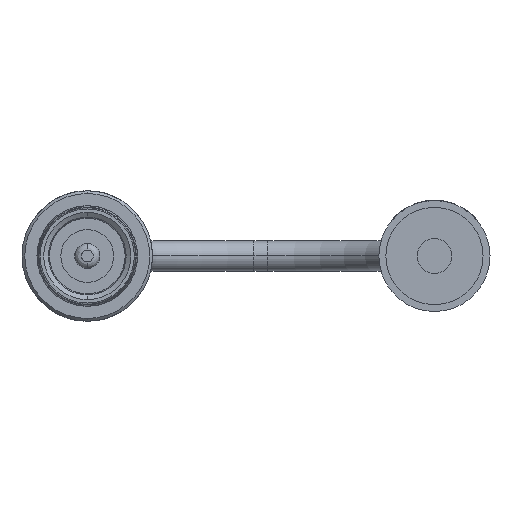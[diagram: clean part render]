
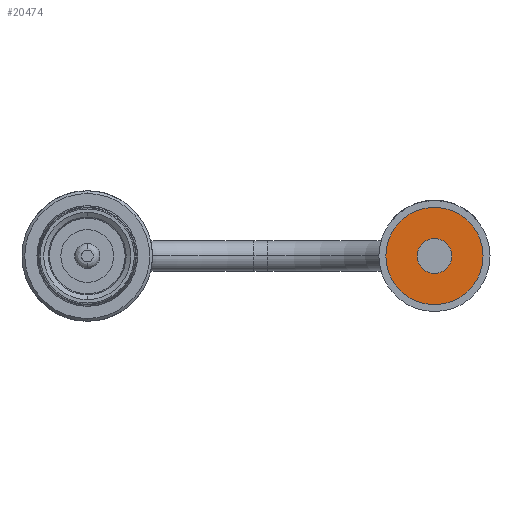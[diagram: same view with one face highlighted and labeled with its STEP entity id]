
A CAD part, front view. The second image highlights one B-rep face of the part: STEP entity #20474.
In plain terms, the highlighted planar face has unit normal (0, -1, 0).
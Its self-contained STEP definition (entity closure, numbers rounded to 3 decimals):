
#6141=CARTESIAN_POINT('',(0.,-19.986,0.));
#6142=DIRECTION('',(0.,-1.,0.));
#6143=DIRECTION('',(-1.,0.,0.));
#6144=AXIS2_PLACEMENT_3D('',#6141,#6142,#6143);
#6149=CARTESIAN_POINT('',(0.,-19.986,0.));
#6150=DIRECTION('',(0.,-1.,0.));
#6151=DIRECTION('',(1.,0.,0.));
#6152=AXIS2_PLACEMENT_3D('',#6149,#6150,#6151);
#6157=CARTESIAN_POINT('',(0.,-19.986,0.));
#6158=DIRECTION('',(0.,1.,0.));
#6159=DIRECTION('',(-1.,0.,0.));
#6160=AXIS2_PLACEMENT_3D('',#6157,#6158,#6159);
#6165=CARTESIAN_POINT('',(0.,-19.986,0.));
#6166=DIRECTION('',(0.,1.,0.));
#6167=DIRECTION('',(1.,0.,0.));
#6168=AXIS2_PLACEMENT_3D('',#6165,#6166,#6167);
#15197=CARTESIAN_POINT('',(-3.5,-19.986,0.));
#15198=CARTESIAN_POINT('',(3.5,-19.986,0.));
#15199=VERTEX_POINT('',#15197);
#15200=VERTEX_POINT('',#15198);
#15201=CARTESIAN_POINT('',(-1.25,-19.986,0.));
#15202=CARTESIAN_POINT('',(1.25,-19.986,0.));
#15203=VERTEX_POINT('',#15201);
#15204=VERTEX_POINT('',#15202);
#20459=CARTESIAN_POINT('',(0.,-19.986,0.));
#20460=DIRECTION('',(0.,-1.,0.));
#20461=DIRECTION('',(-1.,0.,0.));
#20462=AXIS2_PLACEMENT_3D('',#20459,#20460,#20461);
#20463=PLANE('',#20462);
#20464=ORIENTED_EDGE('',*,*,#20415,.F.);
#20465=ORIENTED_EDGE('',*,*,#20441,.F.);
#20466=EDGE_LOOP('',(#20464,#20465));
#20467=FACE_OUTER_BOUND('',#20466,.F.);
#20469=ORIENTED_EDGE('',*,*,#20468,.F.);
#20471=ORIENTED_EDGE('',*,*,#20470,.F.);
#20472=EDGE_LOOP('',(#20469,#20471));
#20473=FACE_BOUND('',#20472,.F.);
#20474=ADVANCED_FACE('',(#20467,#20473),#20463,.T.);
#6145=CIRCLE('',#6144,3.5);
#6153=CIRCLE('',#6152,3.5);
#6161=CIRCLE('',#6160,1.25);
#6169=CIRCLE('',#6168,1.25);
#20415=EDGE_CURVE('',#15199,#15200,#6145,.T.);
#20441=EDGE_CURVE('',#15200,#15199,#6153,.T.);
#20468=EDGE_CURVE('',#15203,#15204,#6161,.T.);
#20470=EDGE_CURVE('',#15204,#15203,#6169,.T.);
